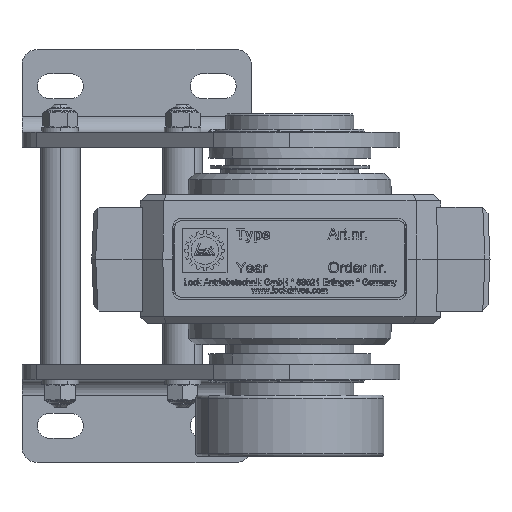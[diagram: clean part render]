
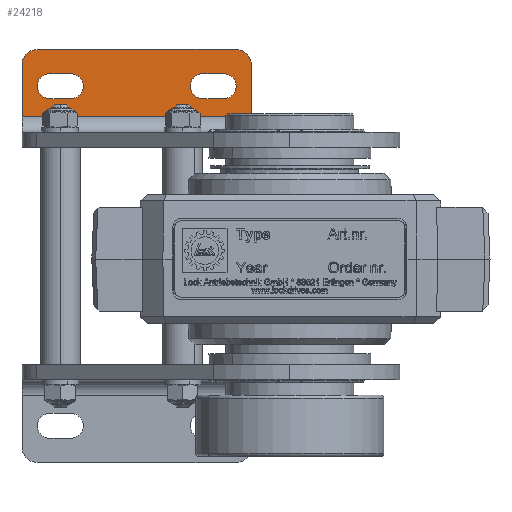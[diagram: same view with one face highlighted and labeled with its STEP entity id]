
A CAD part, front view. The second image highlights one B-rep face of the part: STEP entity #24218.
In plain terms, the highlighted planar face has unit normal (0, -1, 0).
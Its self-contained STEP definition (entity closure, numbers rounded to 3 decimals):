
#1649 = VERTEX_POINT ( 'NONE', #104554 ) ;
#2261 = AXIS2_PLACEMENT_3D ( 'NONE', #146024, #71398, #158554 ) ;
#4241 = FACE_BOUND ( 'NONE', #62896, .T. ) ;
#6190 = CARTESIAN_POINT ( 'NONE',  ( -82.5, 65., 56.5 ) ) ;
#6555 = ORIENTED_EDGE ( 'NONE', *, *, #140644, .F. ) ;
#7211 = LINE ( 'NONE', #32000, #135903 ) ;
#8639 = ORIENTED_EDGE ( 'NONE', *, *, #69957, .F. ) ;
#9190 = PLANE ( 'NONE',  #64094 ) ;
#9326 = CARTESIAN_POINT ( 'NONE',  ( -87.5, 65., 68.5 ) ) ;
#14560 = VECTOR ( 'NONE', #61260, 1000. ) ;
#15595 = EDGE_CURVE ( 'NONE', #44975, #64913, #147104, .T. ) ;
#16069 = CARTESIAN_POINT ( 'NONE',  ( -17.5, 65., 68.5 ) ) ;
#17658 = CIRCLE ( 'NONE', #96505, 4.1 ) ;
#18081 = VERTEX_POINT ( 'NONE', #137124 ) ;
#19061 = CARTESIAN_POINT ( 'NONE',  ( -71.6, 65., 52.4 ) ) ;
#19819 = CARTESIAN_POINT ( 'NONE',  ( -78.4, 65., 52.4 ) ) ;
#20160 = EDGE_CURVE ( 'NONE', #112424, #58975, #33100, .T. ) ;
#20539 = CARTESIAN_POINT ( 'NONE',  ( -87.5, 65., 68.5 ) ) ;
#21612 = DIRECTION ( 'NONE',  ( 0., 0., -1. ) ) ;
#23661 = DIRECTION ( 'NONE',  ( 1., 0., 0. ) ) ;
#24218 = ADVANCED_FACE ( 'NONE', ( #4241, #140801, #70605 ), #9190, .F. ) ;
#24881 = CIRCLE ( 'NONE', #154634, 4.1 ) ;
#25949 = ORIENTED_EDGE ( 'NONE', *, *, #157091, .T. ) ;
#26102 = CARTESIAN_POINT ( 'NONE',  ( -78.4, 65., 60.6 ) ) ;
#26582 = ORIENTED_EDGE ( 'NONE', *, *, #83270, .F. ) ;
#26671 = VECTOR ( 'NONE', #40454, 1000. ) ;
#28082 = VERTEX_POINT ( 'NONE', #161165 ) ;
#28130 = LINE ( 'NONE', #153079, #90407 ) ;
#28686 = VERTEX_POINT ( 'NONE', #111372 ) ;
#28857 = AXIS2_PLACEMENT_3D ( 'NONE', #53852, #141055, #66400 ) ;
#30784 = CARTESIAN_POINT ( 'NONE',  ( -28.4, 65., 60.6 ) ) ;
#32000 = CARTESIAN_POINT ( 'NONE',  ( -28.4, 65., 60.6 ) ) ;
#32527 = DIRECTION ( 'NONE',  ( -1., 0., 0. ) ) ;
#33100 = CIRCLE ( 'NONE', #89662, 4.1 ) ;
#36043 = ORIENTED_EDGE ( 'NONE', *, *, #107000, .T. ) ;
#38104 = CIRCLE ( 'NONE', #43793, 5. ) ;
#38167 = CIRCLE ( 'NONE', #2261, 4.1 ) ;
#39360 = EDGE_LOOP ( 'NONE', ( #140027, #119965, #161011, #113110, #158946 ) ) ;
#40452 = EDGE_CURVE ( 'NONE', #62524, #28082, #38167, .T. ) ;
#40454 = DIRECTION ( 'NONE',  ( 1., 0., 0. ) ) ;
#40552 = CARTESIAN_POINT ( 'NONE',  ( -82.5, 65., 68.5 ) ) ;
#40613 = LINE ( 'NONE', #20539, #102995 ) ;
#40749 = CARTESIAN_POINT ( 'NONE',  ( -28.4, 65., 56.5 ) ) ;
#41918 = AXIS2_PLACEMENT_3D ( 'NONE', #60089, #147242, #72602 ) ;
#43793 = AXIS2_PLACEMENT_3D ( 'NONE', #45825, #132934, #58358 ) ;
#44975 = VERTEX_POINT ( 'NONE', #49812 ) ;
#45464 = CARTESIAN_POINT ( 'NONE',  ( -21.6, 65., 60.6 ) ) ;
#45825 = CARTESIAN_POINT ( 'NONE',  ( -17.5, 65., 63.5 ) ) ;
#46148 = CARTESIAN_POINT ( 'NONE',  ( -21.6, 65., 52.4 ) ) ;
#46430 = VERTEX_POINT ( 'NONE', #40552 ) ;
#48587 = AXIS2_PLACEMENT_3D ( 'NONE', #40749, #127902, #53254 ) ;
#49812 = CARTESIAN_POINT ( 'NONE',  ( -28.4, 65., 52.4 ) ) ;
#50160 = CIRCLE ( 'NONE', #41918, 4.1 ) ;
#51387 = EDGE_CURVE ( 'NONE', #116031, #62524, #66038, .T. ) ;
#53254 = DIRECTION ( 'NONE',  ( -1., 0., 0. ) ) ;
#53498 = EDGE_CURVE ( 'NONE', #101678, #98804, #38104, .T. ) ;
#53852 = CARTESIAN_POINT ( 'NONE',  ( -82.5, 65., 63.5 ) ) ;
#56835 = EDGE_CURVE ( 'NONE', #28686, #44975, #17658, .T. ) ;
#57206 = VECTOR ( 'NONE', #149769, 1000. ) ;
#58358 = DIRECTION ( 'NONE',  ( -1., 0., 0. ) ) ;
#58975 = VERTEX_POINT ( 'NONE', #6190 ) ;
#59234 = DIRECTION ( 'NONE',  ( 0., -1., 0. ) ) ;
#60089 = CARTESIAN_POINT ( 'NONE',  ( -78.4, 65., 56.5 ) ) ;
#60688 = VECTOR ( 'NONE', #96460, 1000. ) ;
#61121 = EDGE_CURVE ( 'NONE', #64913, #136022, #24881, .T. ) ;
#61260 = DIRECTION ( 'NONE',  ( 1., 0., 0. ) ) ;
#62110 = VECTOR ( 'NONE', #23661, 1000. ) ;
#62321 = CARTESIAN_POINT ( 'NONE',  ( -28.4, 65., 52.4 ) ) ;
#62524 = VERTEX_POINT ( 'NONE', #19061 ) ;
#62575 = CARTESIAN_POINT ( 'NONE',  ( -78.4, 65., 60.6 ) ) ;
#62896 = EDGE_LOOP ( 'NONE', ( #100524, #119694, #122621, #8639, #128852 ) ) ;
#64094 = AXIS2_PLACEMENT_3D ( 'NONE', #146439, #71822, #158986 ) ;
#64913 = VERTEX_POINT ( 'NONE', #46148 ) ;
#66038 = LINE ( 'NONE', #135314, #62110 ) ;
#66400 = DIRECTION ( 'NONE',  ( -1., 0., 0. ) ) ;
#66939 = CARTESIAN_POINT ( 'NONE',  ( -12.5, 65., 63.5 ) ) ;
#66997 = CARTESIAN_POINT ( 'NONE',  ( -21.6, 65., 56.5 ) ) ;
#67657 = CARTESIAN_POINT ( 'NONE',  ( -28.4, 65., 56.5 ) ) ;
#69957 = EDGE_CURVE ( 'NONE', #136022, #123560, #7211, .T. ) ;
#70605 = FACE_OUTER_BOUND ( 'NONE', #118874, .T. ) ;
#71398 = DIRECTION ( 'NONE',  ( 0., -1., 0. ) ) ;
#71822 = DIRECTION ( 'NONE',  ( 0., 1., 0. ) ) ;
#72602 = DIRECTION ( 'NONE',  ( -1., 0., 0. ) ) ;
#79477 = DIRECTION ( 'NONE',  ( -1., 0., 0. ) ) ;
#80150 = DIRECTION ( 'NONE',  ( -1., 0., 0. ) ) ;
#81180 = EDGE_CURVE ( 'NONE', #58975, #116031, #50160, .T. ) ;
#83270 = EDGE_CURVE ( 'NONE', #46430, #98804, #156240, .T. ) ;
#87859 = EDGE_CURVE ( 'NONE', #132226, #1649, #126049, .T. ) ;
#89662 = AXIS2_PLACEMENT_3D ( 'NONE', #133828, #59234, #146353 ) ;
#90407 = VECTOR ( 'NONE', #141083, 1000. ) ;
#96460 = DIRECTION ( 'NONE',  ( 1., 0., 0. ) ) ;
#96505 = AXIS2_PLACEMENT_3D ( 'NONE', #67657, #154823, #80150 ) ;
#98804 = VERTEX_POINT ( 'NONE', #16069 ) ;
#100524 = ORIENTED_EDGE ( 'NONE', *, *, #15595, .F. ) ;
#101678 = VERTEX_POINT ( 'NONE', #66939 ) ;
#102537 = CARTESIAN_POINT ( 'NONE',  ( -12.5, 65., 46.5 ) ) ;
#102995 = VECTOR ( 'NONE', #21612, 1000. ) ;
#104554 = CARTESIAN_POINT ( 'NONE',  ( -12.5, 65., 46.5 ) ) ;
#107000 = EDGE_CURVE ( 'NONE', #46430, #18081, #139726, .T. ) ;
#111372 = CARTESIAN_POINT ( 'NONE',  ( -32.5, 65., 56.5 ) ) ;
#112424 = VERTEX_POINT ( 'NONE', #26102 ) ;
#112601 = CIRCLE ( 'NONE', #48587, 4.1 ) ;
#113110 = ORIENTED_EDGE ( 'NONE', *, *, #153521, .F. ) ;
#116031 = VERTEX_POINT ( 'NONE', #19819 ) ;
#118874 = EDGE_LOOP ( 'NONE', ( #6555, #156881, #26582, #36043, #25949, #124325 ) ) ;
#119694 = ORIENTED_EDGE ( 'NONE', *, *, #56835, .F. ) ;
#119965 = ORIENTED_EDGE ( 'NONE', *, *, #81180, .F. ) ;
#122621 = ORIENTED_EDGE ( 'NONE', *, *, #124475, .F. ) ;
#123560 = VERTEX_POINT ( 'NONE', #30784 ) ;
#124325 = ORIENTED_EDGE ( 'NONE', *, *, #87859, .T. ) ;
#124475 = EDGE_CURVE ( 'NONE', #123560, #28686, #112601, .T. ) ;
#126049 = LINE ( 'NONE', #102537, #26671 ) ;
#127902 = DIRECTION ( 'NONE',  ( 0., -1., 0. ) ) ;
#128852 = ORIENTED_EDGE ( 'NONE', *, *, #61121, .F. ) ;
#132226 = VERTEX_POINT ( 'NONE', #141116 ) ;
#132934 = DIRECTION ( 'NONE',  ( 0., -1., 0. ) ) ;
#133828 = CARTESIAN_POINT ( 'NONE',  ( -78.4, 65., 56.5 ) ) ;
#135314 = CARTESIAN_POINT ( 'NONE',  ( -78.4, 65., 52.4 ) ) ;
#135903 = VECTOR ( 'NONE', #32527, 1000. ) ;
#136022 = VERTEX_POINT ( 'NONE', #45464 ) ;
#137124 = CARTESIAN_POINT ( 'NONE',  ( -87.5, 65., 63.5 ) ) ;
#139726 = CIRCLE ( 'NONE', #28857, 5. ) ;
#140027 = ORIENTED_EDGE ( 'NONE', *, *, #51387, .F. ) ;
#140644 = EDGE_CURVE ( 'NONE', #101678, #1649, #28130, .T. ) ;
#140801 = FACE_BOUND ( 'NONE', #39360, .T. ) ;
#141055 = DIRECTION ( 'NONE',  ( 0., -1., 0. ) ) ;
#141083 = DIRECTION ( 'NONE',  ( 0., 0., -1. ) ) ;
#141116 = CARTESIAN_POINT ( 'NONE',  ( -87.5, 65., 46.5 ) ) ;
#146024 = CARTESIAN_POINT ( 'NONE',  ( -71.6, 65., 56.5 ) ) ;
#146353 = DIRECTION ( 'NONE',  ( -1., 0., 0. ) ) ;
#146439 = CARTESIAN_POINT ( 'NONE',  ( -87.5, 65., 68.5 ) ) ;
#147104 = LINE ( 'NONE', #62321, #14560 ) ;
#147242 = DIRECTION ( 'NONE',  ( 0., -1., 0. ) ) ;
#149769 = DIRECTION ( 'NONE',  ( -1., 0., 0. ) ) ;
#153079 = CARTESIAN_POINT ( 'NONE',  ( -12.5, 65., 68.5 ) ) ;
#153521 = EDGE_CURVE ( 'NONE', #28082, #112424, #156643, .T. ) ;
#154164 = DIRECTION ( 'NONE',  ( 0., -1., 0. ) ) ;
#154634 = AXIS2_PLACEMENT_3D ( 'NONE', #66997, #154164, #79477 ) ;
#154823 = DIRECTION ( 'NONE',  ( 0., -1., 0. ) ) ;
#156240 = LINE ( 'NONE', #9326, #60688 ) ;
#156643 = LINE ( 'NONE', #62575, #57206 ) ;
#156881 = ORIENTED_EDGE ( 'NONE', *, *, #53498, .T. ) ;
#157091 = EDGE_CURVE ( 'NONE', #18081, #132226, #40613, .T. ) ;
#158554 = DIRECTION ( 'NONE',  ( -1., 0., 0. ) ) ;
#158946 = ORIENTED_EDGE ( 'NONE', *, *, #40452, .F. ) ;
#158986 = DIRECTION ( 'NONE',  ( -1., 0., 0. ) ) ;
#161011 = ORIENTED_EDGE ( 'NONE', *, *, #20160, .F. ) ;
#161165 = CARTESIAN_POINT ( 'NONE',  ( -71.6, 65., 60.6 ) ) ;
